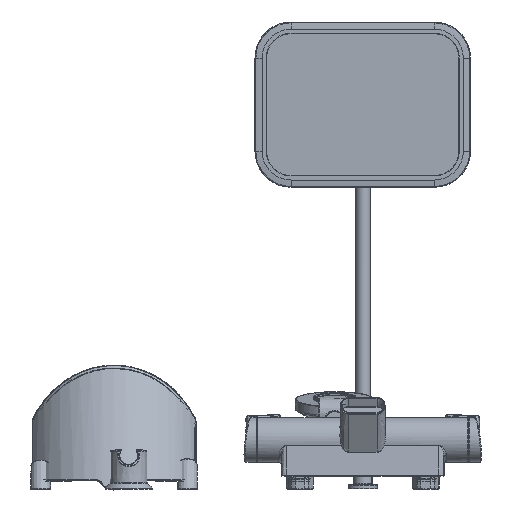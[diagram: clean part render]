
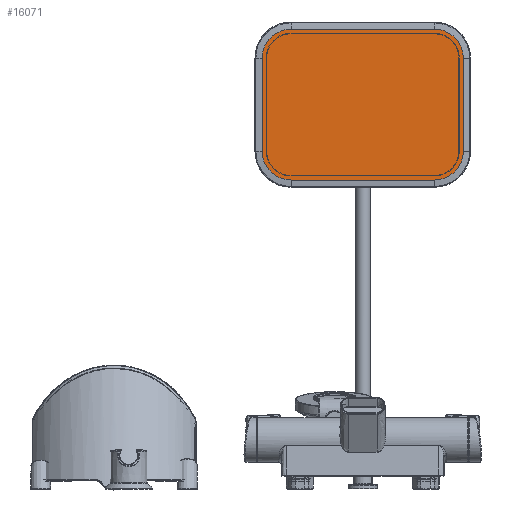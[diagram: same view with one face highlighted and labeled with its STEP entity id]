
A CAD part, front view. The second image highlights one B-rep face of the part: STEP entity #16071.
In plain terms, the highlighted planar face has unit normal (0, -1, 0).
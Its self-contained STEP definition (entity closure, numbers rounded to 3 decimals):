
#1631 = CARTESIAN_POINT ( 'NONE',  ( -119.898, 1529.686, 514. ) ) ;
#3560 = DIRECTION ( 'NONE',  ( 0., -1., 0. ) ) ;
#3821 = DIRECTION ( 'NONE',  ( 0., -1., 0. ) ) ;
#4708 = DIRECTION ( 'NONE',  ( 0., -1., 0. ) ) ;
#5129 = CIRCLE ( 'NONE', #39653, 34.398 ) ;
#5519 = ORIENTED_EDGE ( 'NONE', *, *, #14514, .T. ) ;
#6667 = EDGE_CURVE ( 'NONE', #17069, #11973, #13578, .T. ) ;
#7223 = ORIENTED_EDGE ( 'NONE', *, *, #6667, .T. ) ;
#7268 = ORIENTED_EDGE ( 'NONE', *, *, #9156, .T. ) ;
#8119 = LINE ( 'NONE', #24517, #8333 ) ;
#8333 = VECTOR ( 'NONE', #14534, 1000. ) ;
#9156 = EDGE_CURVE ( 'NONE', #11973, #15082, #9319, .T. ) ;
#9319 = CIRCLE ( 'NONE', #10966, 34.398 ) ;
#10966 = AXIS2_PLACEMENT_3D ( 'NONE', #25169, #4708, #28650 ) ;
#11973 = VERTEX_POINT ( 'NONE', #18287 ) ;
#13578 = LINE ( 'NONE', #40125, #14030 ) ;
#13713 = CARTESIAN_POINT ( 'NONE',  ( 85.5, 1529.686, 514. ) ) ;
#14030 = VECTOR ( 'NONE', #15865, 1000. ) ;
#14328 = AXIS2_PLACEMENT_3D ( 'NONE', #24019, #3560, #27488 ) ;
#14514 = EDGE_CURVE ( 'NONE', #15082, #15326, #40250, .T. ) ;
#14534 = DIRECTION ( 'NONE',  ( 0., 0., 1. ) ) ;
#14849 = CARTESIAN_POINT ( 'NONE',  ( 119.898, 1529.686, 403. ) ) ;
#15082 = VERTEX_POINT ( 'NONE', #40639 ) ;
#15260 = VERTEX_POINT ( 'NONE', #27393 ) ;
#15326 = VERTEX_POINT ( 'NONE', #38464 ) ;
#15478 = EDGE_LOOP ( 'NONE', ( #39364, #39912, #7223, #7268, #5519, #34697, #19453, #15813 ) ) ;
#15523 = VERTEX_POINT ( 'NONE', #18555 ) ;
#15706 = CARTESIAN_POINT ( 'NONE',  ( 85.5, 1529.686, 368.602 ) ) ;
#15813 = ORIENTED_EDGE ( 'NONE', *, *, #22118, .T. ) ;
#15865 = DIRECTION ( 'NONE',  ( -1., 0., 0. ) ) ;
#16071 = ADVANCED_FACE ( 'NONE', ( #33617 ), #38944, .F. ) ;
#17069 = VERTEX_POINT ( 'NONE', #23400 ) ;
#17132 = AXIS2_PLACEMENT_3D ( 'NONE', #24284, #3821, #27751 ) ;
#17135 = DIRECTION ( 'NONE',  ( 0., 0., -1. ) ) ;
#17577 = VERTEX_POINT ( 'NONE', #14849 ) ;
#18287 = CARTESIAN_POINT ( 'NONE',  ( -85.5, 1529.686, 548.398 ) ) ;
#18555 = CARTESIAN_POINT ( 'NONE',  ( 119.898, 1529.686, 514. ) ) ;
#19453 = ORIENTED_EDGE ( 'NONE', *, *, #19705, .T. ) ;
#19705 = EDGE_CURVE ( 'NONE', #15260, #21632, #25075, .T. ) ;
#20458 = AXIS2_PLACEMENT_3D ( 'NONE', #42135, #42455, #21696 ) ;
#21632 = VERTEX_POINT ( 'NONE', #15706 ) ;
#21696 = DIRECTION ( 'NONE',  ( 0., 0., -1. ) ) ;
#22108 = DIRECTION ( 'NONE',  ( 0., 0., -1. ) ) ;
#22118 = EDGE_CURVE ( 'NONE', #21632, #17577, #36459, .T. ) ;
#23400 = CARTESIAN_POINT ( 'NONE',  ( 85.5, 1529.686, 548.398 ) ) ;
#24019 = CARTESIAN_POINT ( 'NONE',  ( -85.5, 1529.686, 403. ) ) ;
#24284 = CARTESIAN_POINT ( 'NONE',  ( 85.5, 1529.686, 403. ) ) ;
#24517 = CARTESIAN_POINT ( 'NONE',  ( 119.898, 1529.686, 514. ) ) ;
#24551 = VECTOR ( 'NONE', #27141, 1000. ) ;
#25075 = LINE ( 'NONE', #37454, #24551 ) ;
#25093 = EDGE_CURVE ( 'NONE', #15326, #15260, #26000, .T. ) ;
#25169 = CARTESIAN_POINT ( 'NONE',  ( -85.5, 1529.686, 514. ) ) ;
#26000 = CIRCLE ( 'NONE', #14328, 34.398 ) ;
#27141 = DIRECTION ( 'NONE',  ( 1., 0., 0. ) ) ;
#27393 = CARTESIAN_POINT ( 'NONE',  ( -85.5, 1529.686, 368.602 ) ) ;
#27488 = DIRECTION ( 'NONE',  ( 0., 0., -1. ) ) ;
#27751 = DIRECTION ( 'NONE',  ( 0., 0., -1. ) ) ;
#28650 = DIRECTION ( 'NONE',  ( 0., 0., -1. ) ) ;
#33617 = FACE_OUTER_BOUND ( 'NONE', #15478, .T. ) ;
#33734 = EDGE_CURVE ( 'NONE', #17577, #15523, #8119, .T. ) ;
#34697 = ORIENTED_EDGE ( 'NONE', *, *, #25093, .T. ) ;
#35430 = EDGE_CURVE ( 'NONE', #15523, #17069, #5129, .T. ) ;
#36459 = CIRCLE ( 'NONE', #17132, 34.398 ) ;
#37454 = CARTESIAN_POINT ( 'NONE',  ( 85.5, 1529.686, 368.602 ) ) ;
#37777 = DIRECTION ( 'NONE',  ( 0., -1., 0. ) ) ;
#38464 = CARTESIAN_POINT ( 'NONE',  ( -119.898, 1529.686, 403. ) ) ;
#38944 = PLANE ( 'NONE',  #20458 ) ;
#39364 = ORIENTED_EDGE ( 'NONE', *, *, #33734, .T. ) ;
#39653 = AXIS2_PLACEMENT_3D ( 'NONE', #13713, #37777, #17135 ) ;
#39912 = ORIENTED_EDGE ( 'NONE', *, *, #35430, .T. ) ;
#40125 = CARTESIAN_POINT ( 'NONE',  ( 85.5, 1529.686, 548.398 ) ) ;
#40250 = LINE ( 'NONE', #1631, #41228 ) ;
#40639 = CARTESIAN_POINT ( 'NONE',  ( -119.898, 1529.686, 514. ) ) ;
#41228 = VECTOR ( 'NONE', #22108, 1000. ) ;
#42135 = CARTESIAN_POINT ( 'NONE',  ( 128.5, 1529.686, 363.023 ) ) ;
#42455 = DIRECTION ( 'NONE',  ( 0., 1., 0. ) ) ;
